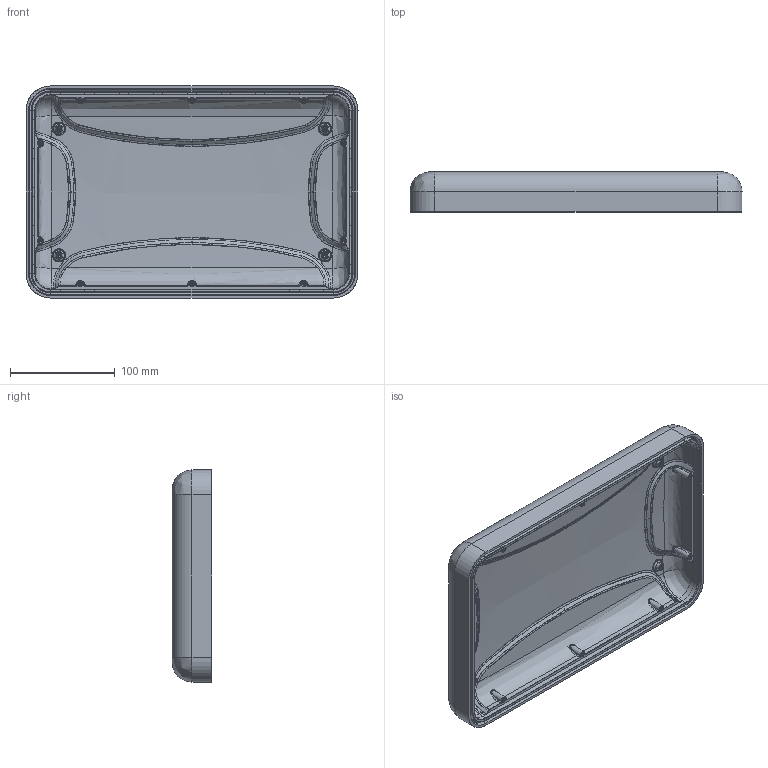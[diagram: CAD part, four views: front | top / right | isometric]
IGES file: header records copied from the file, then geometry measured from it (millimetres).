
Start section: SolidWorks IGES file using analytic representation for surfaces
Global section: file name: C:\Working Folder\909\inner surf\909_Top_Inner_Surfaces.IGS; native system: SolidWorks 2015; preprocessor: SolidWorks 2015; author: MKeighan; date: 171122.160519; units: inch
Bounding box: 316.44 x 38.1 x 202.14 mm (x, y, z)
Surface area: 188067 mm2 (no closed solid volume)
Topology: 0 solids, 0 shells, 772 faces, 9803 edges, 9803 vertices
Faces by surface type: bspline 636, revolution 136
